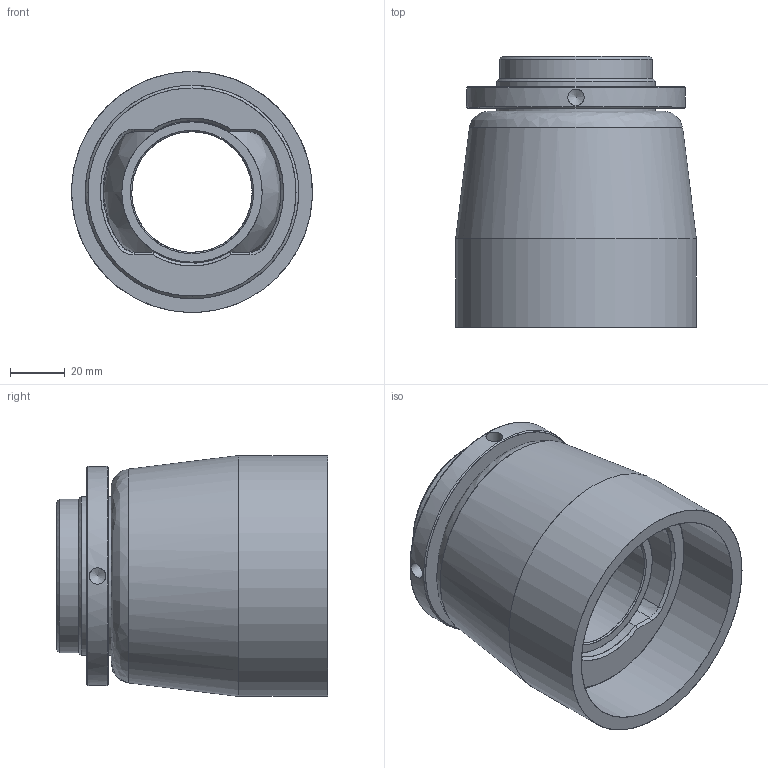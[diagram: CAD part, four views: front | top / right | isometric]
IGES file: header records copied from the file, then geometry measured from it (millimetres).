
Start section: Missler Software 3 rue Hermes, EUROPARC, 31520 Ramonville-Saint-Agne, France Tel   : +33 (0)5 61 00 03 00 Fax   : +33 (0)5 61 00 03 03 Email : sup.solid@topsolid.com
Global section: file name: Z:\J\Jp3\Palier\Palier-type1\3D TopSolid 2011\Serie 10.xx.xx\10.14.xx\10.14.04.igs; native system: TopSolid v611200 Missler Software; preprocessor: IGES preprocessor v100000; author: TAPIN; date: 120223.142519; units: millimetre
Bounding box: 88 x 99 x 88 mm (x, y, z)
Surface area: 99738.8 mm2 (no closed solid volume)
Topology: 0 solids, 0 shells, 69 faces, 1064 edges, 1038 vertices
Faces by surface type: bspline 69
